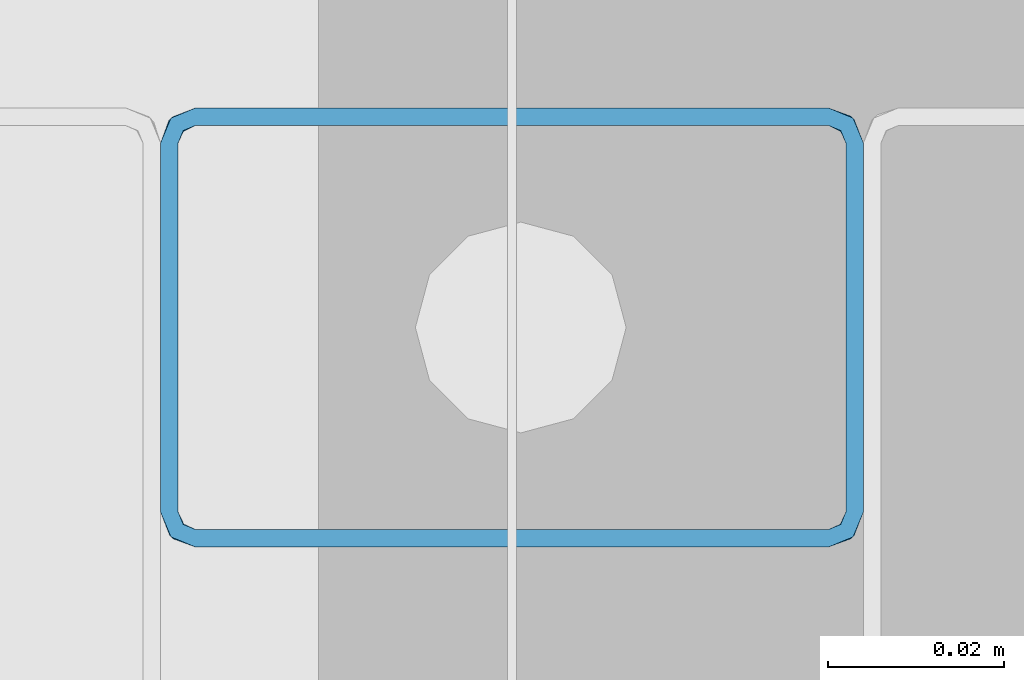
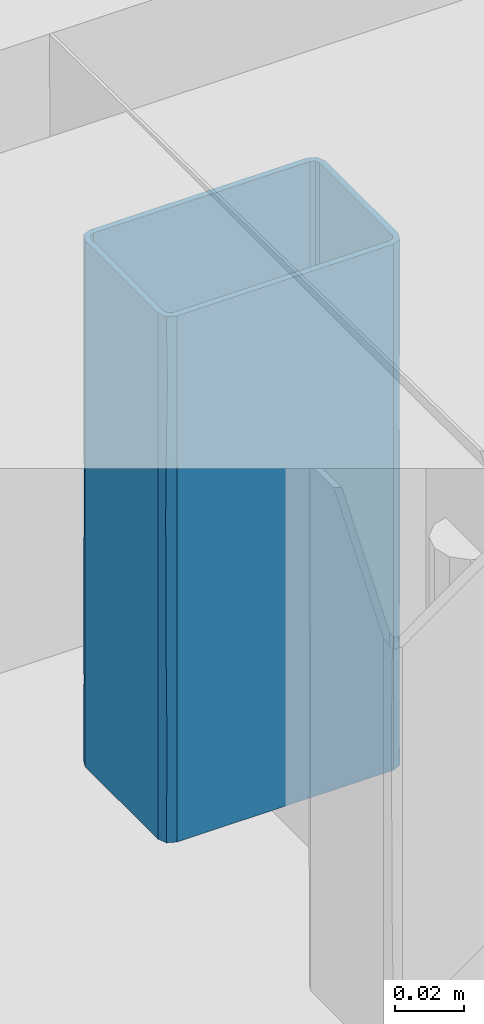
# One storey, part 147 of 186: 1 beam.
"""IFC4X3_ADD2 building model written with IfcOpenShell, lengths in millimetres."""

from ifc_helpers import new_model, si_unit, direction, frame, origin_with_axes, place, context, subcontext, project, spatial, polygons, element, save


model = new_model("IFC4X3_ADD2")

# Units and contexts
model_context = context("Model", 3, precision=1e-05, world=origin_with_axes(), true_north=direction((0.0, 1.0)))
body_context = subcontext(model_context, "Body", "Model", "MODEL_VIEW")
ifc_project = project(units=[si_unit("LENGTHUNIT", "METRE", prefix="MILLI"), si_unit("AREAUNIT", "SQUARE_METRE"), si_unit("VOLUMEUNIT", "CUBIC_METRE"), si_unit("PLANEANGLEUNIT", "RADIAN"), si_unit("TIMEUNIT", "SECOND"), si_unit("MASSUNIT", "GRAM")], contexts=[model_context])

# Site, building, storey
site_placement = place(None, origin_with_axes())
site = spatial("IfcSite", under=ifc_project, at=site_placement, Name="Site", CompositionType="ELEMENT")
building_placement = place(site_placement, origin_with_axes())
building = spatial("IfcBuilding", under=site, at=building_placement, Name="IFC Building Story")
storey_placement = place(building_placement, frame((0.0, 0.0, 4370.0), z_axis=(0.0, 0.0, 1.0), x_axis=(1.0, 0.0, 0.0)))
storey = spatial("IfcBuildingStorey", under=building, at=storey_placement, Name="ETAGE 10 (1)", Elevation=4370.0)

# Beam
beam_placement = place(storey_placement, frame((0.0, 0.0, -4370.0), z_axis=(0.0, 0.0, 1.0), x_axis=(1.0, 0.0, 0.0)))
element("IfcBeam", 1, at=beam_placement, inside=storey, Name="PS9", ObjectType="K50*80*2", context=body_context, shape_type="Tessellation", body=[
    polygons([(48399.18900000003, -14270.99999999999, 7549.598981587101), (48401.18900000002, -14270.99999999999, 7549.598981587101), (48398.60321356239, -14272.41421356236, 7549.598981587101), (48399.18900000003, -14228.99999999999, 7549.598981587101), (48401.18900000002, -14228.99999999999, 7549.598981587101), (48398.60321356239, -14227.58578643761, 7549.598981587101), (48400.01742712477, -14226.17157287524, 7549.598981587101), (48397.18900000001, -14224.99999999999, 7549.598981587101), (48397.18900000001, -14226.99999999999, 7549.598981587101), (48325.18900000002, -14224.99999999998, 7549.598981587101), (48325.18900000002, -14226.99999999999, 7549.598981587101), (48323.77478643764, -14227.58578643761, 7549.598981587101), (48322.36057287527, -14226.17157287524, 7549.598981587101), (48321.18900000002, -14228.99999999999, 7549.598981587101), (48323.18900000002, -14228.99999999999, 7549.598981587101), (48321.18900000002, -14270.99999999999, 7549.598981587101), (48323.18900000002, -14270.99999999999, 7549.598981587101), (48323.77478643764, -14272.41421356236, 7549.598981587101), (48322.36057287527, -14273.82842712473, 7549.598981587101), (48325.18900000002, -14274.99999999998, 7549.598981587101), (48325.18900000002, -14272.99999999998, 7549.598981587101), (48397.18900000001, -14272.99999999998, 7549.598981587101), (48397.18900000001, -14274.99999999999, 7549.598981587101), (48400.01742712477, -14273.82842712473, 7549.598981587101), (48323.18900000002, -14270.99999999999, 7734.598981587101), (48321.18900000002, -14270.99999999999, 7734.598981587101), (48323.77478643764, -14272.41421356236, 7734.598981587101), (48323.18900000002, -14228.99999999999, 7734.598981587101), (48321.18900000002, -14228.99999999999, 7734.598981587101), (48323.77478643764, -14227.58578643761, 7734.598981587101), (48322.36057287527, -14226.17157287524, 7734.598981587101), (48325.18900000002, -14224.99999999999, 7734.598981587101), (48325.18900000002, -14226.99999999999, 7734.598981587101), (48397.18900000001, -14224.99999999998, 7734.598981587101), (48397.18900000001, -14226.99999999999, 7734.598981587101), (48398.60321356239, -14227.58578643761, 7734.598981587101), (48400.01742712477, -14226.17157287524, 7734.598981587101), (48401.18900000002, -14228.99999999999, 7734.598981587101), (48399.18900000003, -14228.99999999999, 7734.598981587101), (48401.18900000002, -14270.99999999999, 7734.598981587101), (48399.18900000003, -14270.99999999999, 7734.598981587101), (48398.60321356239, -14272.41421356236, 7734.598981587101), (48400.01742712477, -14273.82842712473, 7734.598981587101), (48397.18900000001, -14274.99999999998, 7734.598981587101), (48397.18900000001, -14272.99999999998, 7734.598981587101), (48325.18900000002, -14272.99999999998, 7734.598981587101), (48325.18900000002, -14274.99999999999, 7734.598981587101), (48322.36057287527, -14273.82842712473, 7734.598981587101), (48325.18900000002, -14224.99999999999, 7567.057500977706), (48325.18900000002, -14224.99999999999, 7595.848981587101), (48325.18900000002, -14224.99999999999, 7618.973979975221), (48325.18900000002, -14224.99999999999, 7642.098981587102), (48325.18900000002, -14224.99999999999, 7665.22398319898), (48325.18900000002, -14224.99999999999, 7688.348981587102), (48325.18900000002, -14224.99999999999, 7717.140462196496), (48397.18900000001, -14224.99999999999, 7699.681936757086), (48397.18900000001, -14224.99999999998, 7677.016027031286), (48397.18900000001, -14224.99999999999, 7648.224549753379), (48397.18900000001, -14224.99999999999, 7619.433072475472), (48397.18900000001, -14224.99999999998, 7584.516026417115), (48399.8711395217, -14226.03248798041, 7688.348979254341), (48401.18900000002, -14228.99999999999, 7717.140460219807), (48401.18900000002, -14228.99999999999, 7567.057505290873), (48400.13732995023, -14226.29678885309, 7578.945875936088), (48400.13076139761, -14226.28964211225, 7653.661479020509), (48401.18900000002, -14228.99999999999, 7665.223981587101), (48400.13085629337, -14226.28974511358, 7628.466971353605), (48399.76834546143, -14225.94271738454, 7711.526446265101), (48401.18900000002, -14228.99999999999, 7688.348981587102), (48399.75782180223, -14225.93386977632, 7602.891747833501), (48401.18900000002, -14228.99999999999, 7642.098981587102), (48401.18900000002, -14228.99999999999, 7618.9739815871), (48401.18900000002, -14228.99999999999, 7595.848981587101), (48401.18900000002, -14270.99999999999, 7717.140458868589), (48401.18900000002, -14270.99999999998, 7688.348981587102), (48401.18900000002, -14270.99999999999, 7665.223981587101), (48401.18900000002, -14270.99999999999, 7642.098981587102), (48401.18900000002, -14270.99999999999, 7618.9739815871), (48401.18900000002, -14270.99999999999, 7595.848981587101), (48401.18900000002, -14270.99999999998, 7567.057504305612), (48400.13733021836, -14273.70321085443, 7705.252077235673), (48399.76834551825, -14274.05728256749, 7572.671514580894), (48399.87113952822, -14273.96751201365, 7595.848979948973), (48397.18900000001, -14274.99999999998, 7584.516027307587), (48397.18900000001, -14274.99999999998, 7607.181936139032), (48400.13076137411, -14273.71035791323, 7630.536479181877), (48397.18900000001, -14274.99999999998, 7699.681935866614), (48399.75782193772, -14274.06613011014, 7681.306206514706), (48400.13085619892, -14273.71025498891, 7655.73098495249), (48397.18900000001, -14274.99999999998, 7664.764890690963), (48397.18900000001, -14274.99999999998, 7635.973413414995), (48325.18900000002, -14274.99999999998, 7699.681936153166), (48325.18900000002, -14274.99999999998, 7670.890458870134), (48325.18900000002, -14274.99999999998, 7642.098981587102), (48325.18900000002, -14274.99999999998, 7618.973981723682), (48325.18900000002, -14274.99999999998, 7595.848981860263), (48325.18900000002, -14274.99999999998, 7567.057504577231), (48321.18900000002, -14270.99999999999, 7584.516027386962), (48321.18900000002, -14270.99999999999, 7619.433073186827), (48322.34856484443, -14273.81636789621, 7607.411479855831), (48321.18900000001, -14270.99999999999, 7699.681935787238), (48322.36057299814, -14273.8284272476, 7688.348976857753), (48322.60086179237, -14274.04984272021, 7711.473977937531), (48322.53711678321, -14273.99458100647, 7583.376471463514), (48322.22149317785, -14273.68214527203, 7663.470051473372), (48322.29673344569, -14273.76311313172, 7640.418718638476), (48321.18900000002, -14270.99999999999, 7677.01602659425), (48321.18900000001, -14270.99999999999, 7648.224549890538), (48321.18900000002, -14228.99999999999, 7699.681936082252), (48321.18900000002, -14228.99999999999, 7677.016027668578), (48321.18900000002, -14228.99999999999, 7648.224550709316), (48321.18900000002, -14228.99999999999, 7619.433072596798), (48321.18900000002, -14228.99999999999, 7584.516027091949), (48322.22148794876, -14226.31786051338, 7688.348978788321), (48322.48578884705, -14226.05167005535, 7578.945875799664), (48322.4786421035, -14226.05823861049, 7653.661478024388), (48322.47874509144, -14226.05814372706, 7628.466970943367), (48322.13171738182, -14226.42065454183, 7711.526445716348), (48322.12286975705, -14226.43117822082, 7602.891747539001), (48323.82900168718, -14227.53357421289, 7625.929039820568), (48323.18900000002, -14228.99999999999, 7623.66922028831), (48323.8741783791, -14227.49293526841, 7613.583468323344), (48323.61029313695, -14227.77212189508, 7664.531819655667), (48323.71172133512, -14227.65179832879, 7653.749277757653), (48325.18900000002, -14226.99999999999, 7665.223981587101), (48323.82900170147, -14227.53357419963, 7693.738959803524), (48323.18900000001, -14228.99999999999, 7702.259100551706), (48323.18900000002, -14228.99999999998, 7691.479140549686), (48323.18900000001, -14228.99999999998, 7680.699180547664), (48323.70209668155, -14227.6624206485, 7641.817961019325), (48325.18900000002, -14226.99999999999, 7642.098981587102), (48325.18900000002, -14226.99999999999, 7722.253941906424), (48323.7747864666, -14227.58578640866, 7717.646499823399), (48325.18900000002, -14226.99999999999, 7709.90890222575), (48323.78342951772, -14227.57719586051, 7705.830626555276), (48323.18900000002, -14228.99999999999, 7722.25394171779), (48323.18900000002, -14228.99999999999, 7561.94402094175), (48323.77478641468, -14227.58578646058, 7568.11654096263), (48325.18900000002, -14226.99999999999, 7561.944021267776), (48323.18900000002, -14228.99999999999, 7636.014260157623), (48323.18900000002, -14228.99999999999, 7586.634100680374), (48323.72836652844, -14227.63378264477, 7580.461580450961), (48323.77478639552, -14227.58578647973, 7592.806619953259), (48323.71633825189, -14227.64675671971, 7675.309197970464), (48325.18900000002, -14226.99999999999, 7688.348981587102), (48323.18900000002, -14228.99999999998, 7598.979140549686), (48323.18900000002, -14228.99999999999, 7574.289060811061), (48325.18900000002, -14226.99999999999, 7586.63410062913), (48325.18900000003, -14226.99999999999, 7574.289060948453), (48323.18900000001, -14228.99999999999, 7713.039061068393), (48325.18900000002, -14226.99999999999, 7699.128941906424), (48323.18900000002, -14228.99999999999, 7659.139259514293), (48323.18900000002, -14228.99999999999, 7648.359299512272), (48323.18900000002, -14228.99999999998, 7669.919220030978), (48325.18900000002, -14226.99999999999, 7653.661481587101), (48325.18900000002, -14226.99999999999, 7631.319021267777), (48325.18900000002, -14226.99999999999, 7676.786481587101), (48325.18900000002, -14226.99999999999, 7620.539060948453), (48323.18900000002, -14228.99999999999, 7611.324180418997), (48323.633445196, -14227.74292034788, 7603.287688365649), (48325.18900000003, -14226.99999999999, 7609.759100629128), (48325.18900000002, -14226.99999999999, 7598.979140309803), (48323.18900000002, -14270.99999999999, 7722.253941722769), (48323.18900000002, -14270.99999999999, 7709.908901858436), (48323.18900000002, -14270.99999999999, 7699.128941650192), (48323.18900000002, -14270.99999999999, 7688.348981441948), (48323.18900000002, -14270.99999999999, 7676.786481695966), (48323.18900000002, -14270.99999999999, 7665.223981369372), (48323.18900000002, -14270.99999999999, 7653.661481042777), (48323.18900000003, -14270.99999999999, 7642.098981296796), (48323.18900000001, -14270.99999999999, 7630.536481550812), (48323.18900000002, -14270.99999999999, 7618.973981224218), (48323.18900000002, -14270.99999999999, 7607.411480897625), (48323.18900000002, -14270.99999999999, 7595.848981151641), (48323.18900000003, -14270.99999999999, 7585.069020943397), (48323.18900000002, -14270.99999999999, 7574.289060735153), (48323.18900000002, -14270.99999999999, 7561.944021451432), (48323.70496062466, -14272.3407561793, 7659.44273014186), (48323.66485584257, -14272.29498439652, 7647.880618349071), (48323.87424681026, -14272.50712443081, 7621.237918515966), (48323.70296043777, -14272.33853891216, 7636.317730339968), (48325.18900000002, -14272.99999999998, 7625.058702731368), (48325.18900000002, -14272.99999999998, 7561.944020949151), (48323.77478644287, -14272.41421356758, 7566.551461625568), (48325.18900000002, -14272.99999999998, 7571.158902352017), (48323.72257418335, -14272.35999828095, 7579.67904054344), (48323.70041971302, -14272.33571281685, 7694.823087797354), (48323.71734898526, -14272.35434238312, 7682.567730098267), (48325.18900000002, -14272.99999999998, 7648.18370400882), (48323.73451716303, -14272.37276351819, 7591.347273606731), (48325.18900000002, -14272.99999999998, 7581.938862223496), (48325.18900000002, -14272.99999999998, 7722.25394222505), (48325.18900000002, -14272.99999999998, 7685.218823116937), (48323.77478642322, -14272.41421354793, 7716.08142123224), (48325.18900000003, -14272.99999999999, 7709.908901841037), (48325.18900000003, -14272.99999999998, 7672.873782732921), (48323.66529696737, -14272.29550340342, 7671.008022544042), (48325.18900000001, -14272.99999999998, 7660.528743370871), (48323.83575669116, -14272.47266172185, 7608.888762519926), (48325.18900000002, -14272.99999999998, 7614.278742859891), (48325.18900000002, -14272.99999999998, 7603.498782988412), (48325.18900000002, -14272.99999999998, 7592.718822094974), (48325.18900000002, -14272.99999999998, 7697.563862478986), (48323.91915055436, -14272.54514801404, 7705.388109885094), (48325.18900000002, -14272.99999999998, 7635.838663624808), (48397.18900000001, -14272.99999999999, 7722.253942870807), (48397.18900000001, -14272.99999999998, 7711.473981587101), (48397.18900000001, -14272.99999999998, 7699.9114815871), (48397.18900000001, -14272.99999999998, 7688.348981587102), (48397.18900000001, -14272.99999999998, 7676.786481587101), (48397.18900000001, -14272.99999999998, 7665.223981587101), (48397.18900000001, -14272.99999999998, 7653.661481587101), (48397.18900000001, -14272.99999999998, 7642.098981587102), (48397.18900000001, -14272.99999999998, 7630.536481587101), (48397.18900000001, -14272.99999999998, 7618.9739815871), (48397.18900000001, -14272.99999999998, 7607.411481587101), (48397.18900000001, -14272.99999999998, 7595.848981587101), (48397.18900000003, -14272.99999999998, 7585.069020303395), (48397.18900000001, -14272.99999999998, 7574.289060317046), (48397.18900000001, -14272.99999999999, 7561.944020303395), (48398.52975615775, -14272.48403939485, 7659.442730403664), (48398.48398437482, -14272.52414417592, 7647.880618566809), (48398.69612441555, -14272.31475320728, 7621.237918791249), (48398.52753889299, -14272.48603957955, 7636.317730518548), (48399.18900000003, -14270.99999999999, 7625.058703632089), (48398.47519377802, -14272.53156964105, 7705.518256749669), (48399.18900000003, -14270.99999999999, 7561.944022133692), (48398.60321356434, -14272.41421356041, 7566.551461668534), (48399.18900000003, -14270.99999999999, 7571.158902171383), (48399.18900000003, -14270.99999999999, 7722.253942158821), (48398.54899827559, -14272.46642582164, 7579.679040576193), (48399.18900000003, -14270.99999999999, 7685.218822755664), (48398.5543183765, -14272.46147382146, 7694.130230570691), (48399.18900000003, -14270.99999999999, 7697.563862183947), (48398.67461845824, -14272.33900627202, 7679.046301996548), (48398.56176351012, -14272.45448284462, 7591.347273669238), (48399.18900000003, -14270.99999999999, 7581.938862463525), (48399.18900000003, -14270.99999999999, 7709.908902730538), (48398.60321354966, -14272.41421357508, 7716.86396120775), (48399.18900000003, -14270.99999999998, 7648.183703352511), (48399.18900000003, -14270.99999999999, 7672.873783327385), (48399.18900000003, -14270.99999999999, 7660.528742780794), (48398.66166170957, -14272.35324332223, 7608.888762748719), (48399.18900000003, -14270.99999999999, 7614.278743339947), (48399.18900000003, -14270.99999999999, 7603.498783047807), (48399.18900000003, -14270.99999999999, 7592.718822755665), (48399.18900000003, -14270.99999999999, 7635.838663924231), (48399.18900000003, -14228.99999999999, 7722.253941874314), (48399.18900000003, -14228.99999999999, 7709.908902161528), (48399.18900000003, -14228.99999999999, 7697.563862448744), (48399.18900000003, -14228.99999999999, 7685.218822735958), (48399.18900000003, -14228.99999999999, 7672.873783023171), (48399.18900000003, -14228.99999999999, 7660.528743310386), (48399.18900000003, -14228.99999999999, 7648.183703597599), (48399.18900000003, -14228.99999999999, 7635.838663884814), (48399.18900000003, -14228.99999999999, 7625.0587035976), (48399.18900000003, -14228.99999999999, 7614.278743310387), (48399.18900000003, -14228.99999999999, 7603.498783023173), (48399.18900000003, -14228.99999999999, 7592.718822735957), (48399.18900000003, -14228.99999999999, 7581.938862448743), (48399.18900000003, -14228.99999999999, 7571.158902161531), (48399.18900000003, -14228.99999999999, 7561.944021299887), (48398.76770674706, -14227.77212174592, 7619.666140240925), (48398.66627859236, -14227.65179824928, 7630.448682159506), (48397.18900000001, -14226.99999999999, 7618.973981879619), (48398.54899824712, -14227.5335741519, 7658.268919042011), (48398.50382159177, -14227.49293524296, 7670.614489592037), (48398.60321360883, -14227.58578648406, 7716.081418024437), (48398.60321362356, -14227.58578649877, 7702.876051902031), (48397.18900000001, -14226.99999999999, 7709.908902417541), (48397.18900000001, -14226.99999999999, 7642.098981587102), (48398.67590326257, -14227.66242058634, 7642.379998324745), (48398.54899825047, -14227.53357415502, 7590.459000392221), (48398.59457048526, -14227.57719586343, 7578.367333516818), (48397.18900000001, -14226.99999999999, 7574.289060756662), (48398.60321356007, -14227.58578643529, 7566.551461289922), (48398.6616616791, -14227.64675664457, 7608.888761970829), (48397.18900000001, -14226.99999999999, 7595.848981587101), (48397.18900000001, -14226.99999999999, 7697.563862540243), (48398.60321352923, -14227.58578640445, 7690.510053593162), (48397.18900000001, -14226.99999999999, 7722.253941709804), (48397.18900000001, -14226.99999999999, 7561.944021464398), (48397.18900000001, -14226.99999999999, 7585.069021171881), (48397.18900000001, -14226.99999999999, 7630.536482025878), (48397.18900000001, -14226.99999999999, 7652.878942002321), (48397.18900000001, -14226.99999999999, 7607.41148173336), (48397.18900000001, -14226.99999999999, 7663.658901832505), (48397.18900000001, -14226.99999999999, 7674.438862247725), (48397.18900000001, -14226.99999999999, 7685.218822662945)], [[[1, 2, 3]], [[2, 1, 4]], [[4, 5, 2]], [[6, 5, 4]], [[7, 5, 6]], [[6, 8, 7]], [[6, 9, 8]], [[8, 9, 10]], [[11, 10, 9]], [[11, 12, 10]], [[10, 12, 13]], [[14, 13, 12]], [[14, 12, 15]], [[14, 15, 16]], [[17, 16, 15]], [[18, 16, 17]], [[16, 18, 19]], [[18, 20, 19]], [[21, 20, 18]], [[20, 21, 22]], [[3, 23, 22]], [[22, 23, 20]], [[3, 2, 24]], [[23, 3, 24]], [[25, 26, 27]], [[26, 25, 28]], [[28, 29, 26]], [[30, 29, 28]], [[31, 29, 30]], [[30, 32, 31]], [[30, 33, 32]], [[32, 33, 34]], [[35, 34, 33]], [[35, 36, 34]], [[34, 36, 37]], [[38, 37, 36]], [[38, 36, 39]], [[38, 39, 40]], [[41, 40, 39]], [[42, 40, 41]], [[40, 42, 43]], [[42, 44, 43]], [[45, 44, 42]], [[44, 45, 46]], [[27, 47, 46]], [[46, 47, 44]], [[27, 26, 48]], [[47, 27, 48]], [[55, 32, 34]], [[56, 57, 54]], [[54, 55, 34]], [[54, 34, 56]], [[57, 53, 54]], [[57, 58, 52]], [[57, 52, 53]], [[58, 59, 51]], [[58, 51, 52]], [[59, 60, 50]], [[59, 50, 51]], [[60, 8, 49]], [[60, 49, 50]], [[8, 10, 49]], [[61, 57, 56]], [[37, 38, 62]], [[63, 5, 7]], [[7, 8, 64]], [[61, 65, 57]], [[66, 65, 61]], [[67, 59, 58]], [[61, 68, 69]], [[61, 56, 68]], [[8, 60, 64]], [[67, 70, 59]], [[34, 37, 68]], [[64, 60, 70]], [[68, 62, 69]], [[58, 65, 67]], [[65, 66, 71]], [[61, 69, 66]], [[65, 71, 67]], [[57, 65, 58]], [[70, 72, 73]], [[72, 70, 67]], [[64, 73, 63]], [[60, 59, 70]], [[34, 68, 56]], [[62, 68, 37]], [[67, 71, 72]], [[73, 64, 70]], [[7, 64, 63]], [[62, 38, 40]], [[62, 40, 74]], [[74, 75, 69]], [[74, 69, 62]], [[75, 76, 66]], [[75, 66, 69]], [[76, 77, 71]], [[76, 71, 66]], [[77, 78, 72]], [[77, 72, 71]], [[78, 79, 73]], [[78, 73, 72]], [[79, 80, 63]], [[79, 63, 73]], [[80, 2, 5]], [[80, 5, 63]], [[43, 44, 81]], [[82, 79, 83]], [[84, 83, 85]], [[82, 80, 79]], [[83, 86, 85]], [[24, 2, 80]], [[74, 40, 43]], [[78, 86, 83]], [[81, 44, 87]], [[87, 88, 81]], [[89, 90, 91]], [[89, 88, 90]], [[23, 24, 82]], [[83, 84, 82]], [[91, 86, 89]], [[86, 78, 77]], [[83, 79, 78]], [[86, 77, 89]], [[85, 86, 91]], [[88, 76, 75]], [[76, 88, 89]], [[81, 75, 74]], [[87, 90, 88]], [[23, 82, 84]], [[80, 82, 24]], [[89, 77, 76]], [[75, 81, 88]], [[43, 81, 74]], [[87, 44, 47]], [[87, 47, 92]], [[92, 93, 90]], [[92, 90, 87]], [[93, 94, 91]], [[93, 91, 90]], [[95, 96, 85]], [[85, 91, 94]], [[85, 94, 95]], [[96, 84, 85]], [[97, 20, 23]], [[97, 23, 84]], [[84, 96, 97]], [[98, 16, 19]], [[99, 98, 100]], [[101, 102, 103]], [[19, 97, 104]], [[48, 103, 47]], [[94, 105, 106]], [[93, 102, 105]], [[96, 100, 104]], [[105, 102, 107]], [[26, 101, 103]], [[100, 106, 99]], [[19, 20, 97]], [[101, 107, 102]], [[105, 94, 93]], [[103, 102, 92]], [[93, 92, 102]], [[107, 108, 105]], [[105, 108, 106]], [[47, 103, 92]], [[103, 48, 26]], [[108, 99, 106]], [[96, 95, 100]], [[100, 95, 106]], [[95, 94, 106]], [[104, 100, 98]], [[19, 104, 98]], [[97, 96, 104]], [[101, 26, 29]], [[101, 29, 109]], [[109, 110, 107]], [[109, 107, 101]], [[110, 111, 108]], [[110, 108, 107]], [[111, 112, 99]], [[111, 99, 108]], [[112, 113, 98]], [[112, 98, 99]], [[113, 14, 16]], [[113, 16, 98]], [[114, 110, 109]], [[31, 32, 55]], [[49, 10, 13]], [[13, 14, 115]], [[114, 116, 110]], [[53, 116, 114]], [[117, 112, 111]], [[114, 118, 54]], [[114, 109, 118]], [[14, 113, 115]], [[117, 119, 112]], [[29, 31, 118]], [[115, 113, 119]], [[118, 55, 54]], [[111, 116, 117]], [[116, 53, 52]], [[114, 54, 53]], [[116, 52, 117]], [[110, 116, 111]], [[119, 51, 50]], [[51, 119, 117]], [[115, 50, 49]], [[113, 112, 119]], [[29, 118, 109]], [[55, 118, 31]], [[117, 52, 51]], [[50, 115, 119]], [[13, 115, 49]], [[120, 121, 122]], [[123, 124, 125]], [[126, 127, 128, 129]], [[124, 130, 131]], [[132, 30, 133]], [[134, 133, 135]], [[30, 28, 136]], [[137, 15, 12]], [[138, 12, 139]], [[120, 130, 140]], [[141, 142, 143]], [[144, 145, 126]], [[141, 143, 146]], [[137, 138, 147]], [[148, 142, 149]], [[30, 136, 133]], [[150, 133, 136]], [[12, 11, 139]], [[132, 33, 30]], [[12, 138, 137]], [[133, 134, 132]], [[150, 127, 135]], [[135, 126, 151]], [[150, 135, 133]], [[151, 126, 145]], [[152, 153, 124]], [[129, 154, 144]], [[124, 131, 155, 125]], [[130, 120, 156]], [[144, 154, 123]], [[157, 145, 144, 125]], [[129, 144, 126]], [[152, 123, 154]], [[158, 120, 122]], [[142, 138, 149]], [[142, 141, 147]], [[149, 138, 139]], [[159, 122, 121]], [[153, 130, 124]], [[159, 160, 122]], [[156, 120, 158]], [[121, 120, 140]], [[143, 160, 146]], [[161, 158, 122]], [[143, 162, 160]], [[148, 162, 143]], [[143, 142, 148]], [[138, 142, 147]], [[144, 123, 125]], [[124, 123, 152]], [[134, 135, 151]], [[135, 127, 126]], [[146, 160, 159]], [[162, 161, 160]], [[161, 122, 160]], [[156, 131, 130]], [[140, 130, 153]], [[136, 28, 25]], [[136, 25, 163]], [[163, 164, 150]], [[163, 150, 136]], [[164, 165, 127]], [[164, 127, 150]], [[165, 166, 128]], [[165, 128, 127]], [[166, 167, 129]], [[166, 129, 128]], [[167, 168, 154]], [[167, 154, 129]], [[168, 169, 152]], [[168, 152, 154]], [[169, 153, 152]], [[170, 171, 140]], [[140, 153, 169]], [[140, 169, 170]], [[171, 172, 121]], [[171, 121, 140]], [[172, 173, 159]], [[172, 159, 121]], [[173, 174, 146]], [[173, 146, 159]], [[174, 175, 141]], [[174, 141, 146]], [[175, 176, 147]], [[175, 147, 141]], [[176, 177, 137]], [[176, 137, 147]], [[177, 17, 15]], [[177, 15, 137]], [[178, 179, 169]], [[180, 181, 182]], [[163, 25, 27]], [[18, 17, 177]], [[183, 184, 185]], [[176, 175, 186]], [[187, 188, 166]], [[166, 188, 167]], [[189, 179, 178]], [[190, 186, 175]], [[186, 190, 191]], [[183, 21, 18]], [[46, 192, 27]], [[187, 193, 188]], [[163, 194, 164]], [[195, 194, 192]], [[185, 186, 191]], [[27, 194, 163]], [[196, 197, 188]], [[169, 168, 178]], [[18, 177, 176, 184]], [[198, 189, 178]], [[18, 184, 183]], [[186, 185, 184]], [[199, 200, 201]], [[176, 186, 184]], [[202, 191, 190, 201]], [[27, 192, 194]], [[190, 199, 201]], [[179, 181, 170]], [[197, 196, 198]], [[178, 168, 197]], [[193, 196, 188]], [[197, 167, 188]], [[187, 203, 193]], [[195, 204, 194]], [[165, 164, 204]], [[180, 199, 172]], [[172, 199, 174, 173]], [[199, 190, 174]], [[180, 200, 199]], [[205, 182, 181, 189]], [[171, 181, 180]], [[204, 195, 203]], [[187, 165, 204]], [[170, 181, 171]], [[180, 172, 171]], [[169, 179, 170]], [[181, 179, 189]], [[167, 197, 168]], [[198, 178, 197]], [[182, 200, 180]], [[187, 166, 165]], [[194, 204, 164]], [[187, 204, 203]], [[174, 190, 175]], [[192, 46, 45]], [[192, 45, 206]], [[206, 207, 195]], [[206, 195, 192]], [[207, 208, 203]], [[207, 203, 195]], [[208, 209, 193]], [[208, 193, 203]], [[209, 210, 196]], [[209, 196, 193]], [[210, 211, 198]], [[210, 198, 196]], [[211, 212, 189]], [[211, 189, 198]], [[213, 214, 205]], [[213, 205, 189]], [[189, 212, 213]], [[214, 182, 205]], [[214, 215, 200]], [[214, 200, 182]], [[215, 216, 201]], [[215, 201, 200]], [[216, 217, 202]], [[216, 202, 201]], [[217, 218, 191]], [[217, 191, 202]], [[218, 219, 185]], [[218, 185, 191]], [[219, 220, 183]], [[219, 183, 185]], [[220, 22, 21]], [[220, 21, 183]], [[221, 222, 212]], [[223, 224, 225]], [[208, 207, 226]], [[227, 1, 3]], [[227, 3, 228]], [[228, 229, 227]], [[42, 41, 230]], [[219, 218, 231]], [[232, 233, 234]], [[233, 235, 209]], [[208, 233, 209]], [[236, 231, 218]], [[231, 236, 237]], [[238, 226, 239]], [[206, 239, 207]], [[208, 226, 233]], [[206, 45, 42]], [[220, 219, 228]], [[228, 3, 22]], [[228, 22, 220]], [[229, 231, 237]], [[42, 230, 239]], [[42, 239, 206]], [[239, 230, 238]], [[240, 222, 221]], [[221, 235, 241]], [[212, 211, 221]], [[242, 240, 221, 241]], [[231, 229, 228]], [[243, 244, 245]], [[219, 231, 228]], [[246, 237, 236, 245]], [[241, 235, 232]], [[238, 234, 226]], [[222, 224, 213]], [[210, 209, 235, 211]], [[235, 221, 211]], [[236, 243, 245]], [[223, 243, 215]], [[215, 243, 217, 216]], [[243, 236, 217]], [[223, 244, 243]], [[247, 225, 224, 240]], [[214, 224, 223]], [[213, 224, 214]], [[223, 215, 214]], [[232, 235, 233]], [[212, 222, 213]], [[224, 222, 240]], [[234, 233, 226]], [[239, 226, 207]], [[225, 244, 223]], [[217, 236, 218]], [[230, 41, 39]], [[230, 39, 248]], [[248, 249, 238]], [[248, 238, 230]], [[249, 250, 234]], [[249, 234, 238]], [[250, 251, 232]], [[250, 232, 234]], [[251, 252, 241]], [[251, 241, 232]], [[252, 253, 242]], [[252, 242, 241]], [[253, 254, 240]], [[253, 240, 242]], [[254, 255, 247]], [[254, 247, 240]], [[255, 256, 225]], [[255, 225, 247]], [[256, 257, 244]], [[256, 244, 225]], [[257, 258, 245]], [[257, 245, 244]], [[258, 259, 246]], [[258, 246, 245]], [[259, 260, 237]], [[259, 237, 246]], [[260, 261, 229]], [[260, 229, 237]], [[261, 262, 227]], [[261, 227, 229]], [[262, 4, 1]], [[262, 1, 227]], [[263, 264, 265]], [[266, 253, 267]], [[249, 248, 268]], [[269, 268, 270]], [[271, 264, 272]], [[273, 260, 259, 258]], [[261, 260, 274]], [[275, 276, 274]], [[266, 272, 254]], [[262, 261, 276]], [[276, 6, 4]], [[276, 4, 262]], [[248, 39, 36]], [[277, 278, 273]], [[269, 279, 280]], [[35, 281, 36]], [[282, 9, 6]], [[36, 268, 248]], [[282, 6, 276]], [[281, 270, 268]], [[282, 276, 275]], [[274, 273, 283]], [[261, 274, 276]], [[283, 273, 278]], [[256, 255, 264]], [[258, 257, 277]], [[264, 271, 284, 265]], [[272, 266, 285]], [[277, 257, 263]], [[286, 278, 277, 265]], [[258, 277, 273]], [[256, 263, 257]], [[36, 281, 268]], [[249, 268, 269]], [[252, 251, 267, 253]], [[255, 272, 264]], [[287, 266, 267]], [[285, 266, 287]], [[253, 266, 254]], [[250, 249, 269]], [[280, 250, 269]], [[288, 287, 267, 289]], [[280, 289, 267]], [[277, 263, 265]], [[251, 250, 280]], [[269, 270, 279]], [[264, 263, 256]], [[275, 274, 283]], [[274, 260, 273]], [[285, 271, 272]], [[254, 272, 255]], [[251, 280, 267]], [[289, 280, 279]], [[281, 35, 33]], [[281, 33, 132]], [[132, 134, 270]], [[132, 270, 281]], [[134, 151, 279]], [[134, 279, 270]], [[151, 145, 289]], [[151, 289, 279]], [[145, 157, 288]], [[145, 288, 289]], [[157, 125, 287]], [[157, 287, 288]], [[125, 155, 285]], [[125, 285, 287]], [[155, 131, 271]], [[155, 271, 285]], [[131, 156, 284]], [[131, 284, 271]], [[156, 158, 265]], [[156, 265, 284]], [[158, 161, 286]], [[158, 286, 265]], [[161, 162, 278]], [[161, 278, 286]], [[162, 148, 283]], [[162, 283, 278]], [[148, 149, 275]], [[148, 275, 283]], [[149, 139, 282]], [[149, 282, 275]], [[139, 11, 9]], [[139, 9, 282]]]),
])

save(model, "model.ifc")
